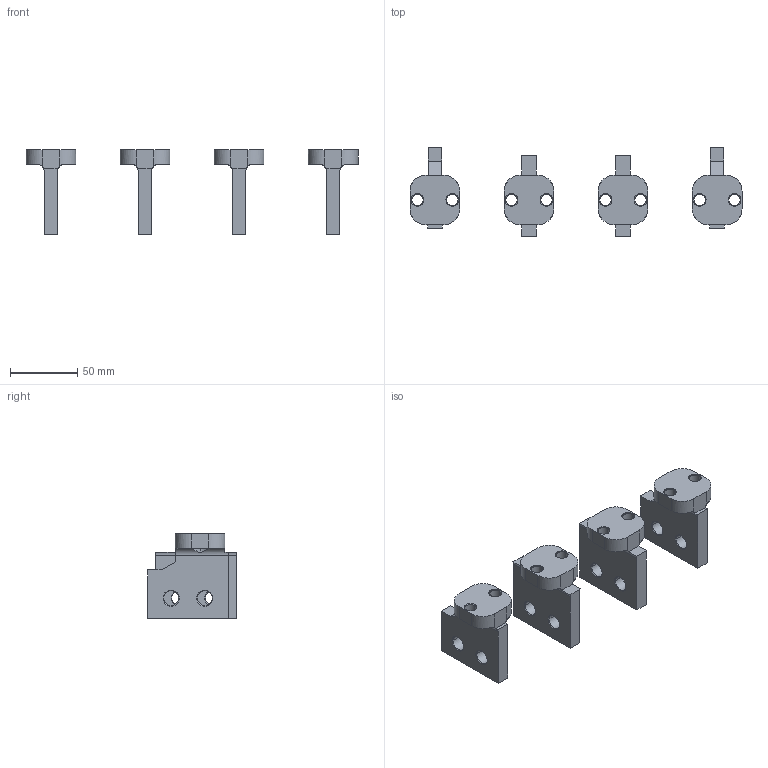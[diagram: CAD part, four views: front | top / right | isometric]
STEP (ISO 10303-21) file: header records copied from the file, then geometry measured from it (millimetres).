
FILE_DESCRIPTION (( 'STEP AP203' ), '1' );
FILE_NAME ('Âûâîäû âåðòèê. âåðõíèå äëÿ ñòàöèîíàðíîãî íà 800-1000À 4P.STEP', '2024-06-25T08:36:05', ( '' ), ( '' ), 'SwSTEP 2.0', 'SolidWorks 2018', '' );
FILE_SCHEMA (( 'CONFIG_CONTROL_DESIGN' ));
Length unit declared in the file: millimetre
Products named in the file (1): Âûâîäû âåðòèê. âåðõíèå äëÿ ñòàöèîíàðíîãî íà 800-1000À 4P
Bounding box: 247 x 66 x 63 mm (x, y, z)
Volume: 160831.4 mm3; surface area: 46984.8 mm2
Topology: 4 solids, 4 shells, 190 faces, 482 edges, 300 vertices
Faces by surface type: cylinder 68, cone 64, plane 58
Entity records: 6205 total; most frequent: CARTESIAN_POINT 1385, DIRECTION 1036, ORIENTED_EDGE 964, EDGE_CURVE 482, AXIS2_PLACEMENT_3D 391, VERTEX_POINT 300, VECTOR 254, LINE 254
